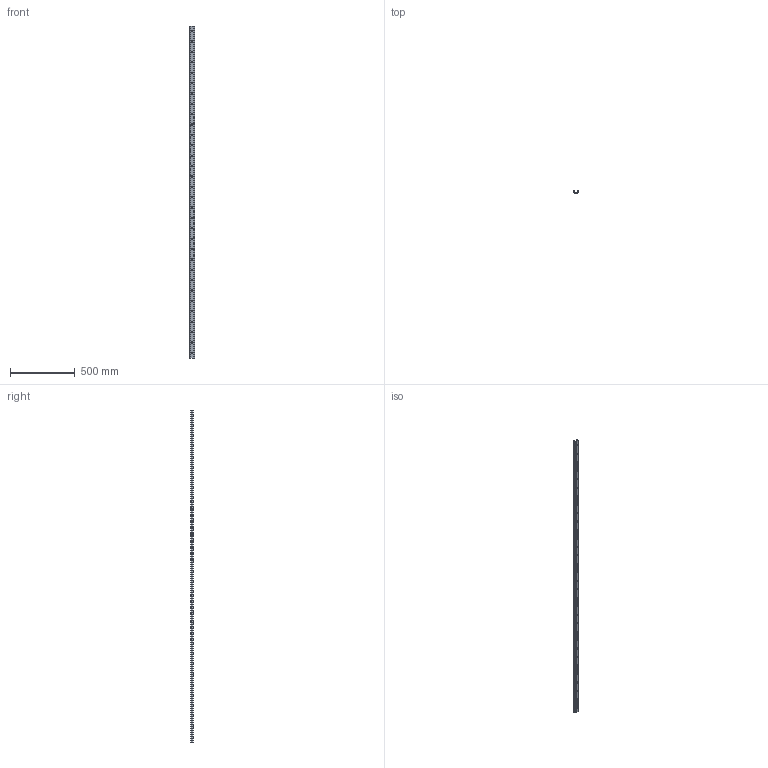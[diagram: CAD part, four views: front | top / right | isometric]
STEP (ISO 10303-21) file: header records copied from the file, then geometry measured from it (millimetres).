
FILE_DESCRIPTION(('STEP AP214'),'1');
FILE_NAME('rail_tex40-2560.stp','2019-03-08T08:33:41',('TraceParts'),('TraceParts S.A.'),'Spatial InterOp 3D',' ',' ');
FILE_SCHEMA(('automotive_design'));
Length unit declared in the file: millimetre
Products named in the file (1): rail_tex40-2560
Bounding box: 39.53 x 21 x 2560 mm (x, y, z)
Volume: 500533.1 mm3; surface area: 352575.4 mm2
Topology: 1 solids, 1 shells, 546 faces, 1416 edges, 944 vertices
Faces by surface type: plane 382, bspline 88, cylinder 76
Entity records: 34513 total; most frequent: CARTESIAN_POINT 17043, ORIENTED_EDGE 2832, DIRECTION 2310, EDGE_CURVE 1416, LINE 1088, VECTOR 1088, VERTEX_POINT 944, EDGE_LOOP 682
